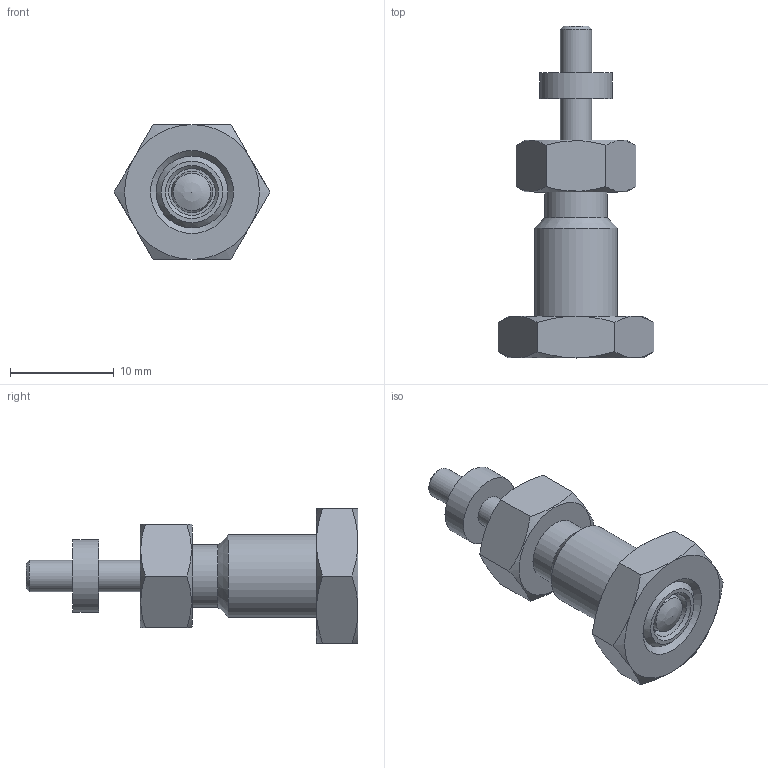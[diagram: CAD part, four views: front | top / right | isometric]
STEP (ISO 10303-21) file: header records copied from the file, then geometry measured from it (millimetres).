
FILE_DESCRIPTION( ( 'STEP AP203' ), '1' );
FILE_NAME( 'C:/Temp/Ganter_Step_05_03_2020/data/3_1/gn817/gn817_ni-rastbolzen/Stainless Steel-Indexing plunger GN 817-4-4-GK-NI (activated-0).stp', '2020-03-12T08:59:56', ( 'License CC BY-ND 4.0' ), ( 'CADENAS' ), ' ', 'PARTsolutions', ' ' );
FILE_SCHEMA( ( 'CONFIG_CONTROL_DESIGN' ) );
Length unit declared in the file: millimetre
Products named in the file (5): Stainless Steel-Indexing plunger GN 817-4-4-GK-NI (activated-0); _Stainless steel-Indexing plunger GN 817-4-4-GK-NI (activated-0)-d; _Stainless steel-Indexing plunger GN 817-4-4-B-NI-2; _Stainless Steel-Indexing plunger GN 817-4-4-G-NI-6; _Stainless steel-Indexing plunger GN 817-4-4-BK-NI (deactivated-0)-3
Assembly tree (4 placements, depth 2):
  Stainless Steel-Indexing plunger GN 817-4-4-GK-NI (activated-0)
    _Stainless steel-Indexing plunger GN 817-4-4-GK-NI (activated-0)-d
    _Stainless steel-Indexing plunger GN 817-4-4-B-NI-2
    _Stainless Steel-Indexing plunger GN 817-4-4-G-NI-6
    _Stainless steel-Indexing plunger GN 817-4-4-BK-NI (deactivated-0)-3
Bounding box: 15.01 x 32 x 13 mm (x, y, z)
Volume: 1713 mm3; surface area: 1941.8 mm2
Topology: 3 solids, 3 shells, 58 faces, 116 edges, 70 vertices
Faces by surface type: plane 23, cone 22, cylinder 10, torus 2, sphere 1
Full cylindrical faces by diameter (mm): 3 x3, 4 x1, 4.5 x2, 6 x1, 6.917 x1, 7 x1, 8 x1
Entity records: 1704 total; most frequent: CARTESIAN_POINT 467, DIRECTION 224, ORIENTED_EDGE 182, AXIS2_PLACEMENT_3D 106, EDGE_CURVE 91, EDGE_LOOP 90, FACE_OUTER_BOUND 70, VERTEX_POINT 68
